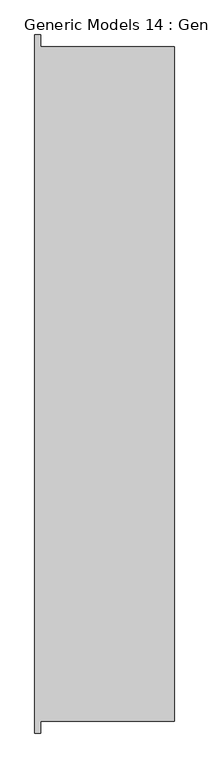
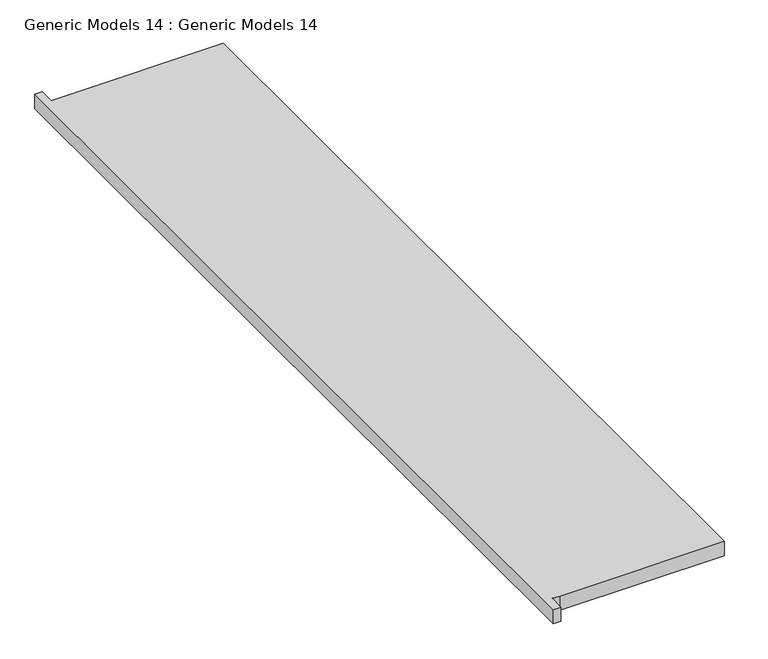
"""IFC4 building model written with IfcOpenShell, lengths in millimetres: proxy geometry, Generic Models 14 : Generic Models 14."""

from ifc_helpers import new_model, si_unit, frame, origin, place, context, project, spatial, polyline, outline, extrude, source, transform, mapped, element, save


def generic_models_14_generic_models_14_d007ad1f(model_context):
    return source(origin(), model_context, "Body", "SweptSolid", [
        extrude(outline(polyline([(3797.3, 990.6), (3797.3, 2514.6), (3810.0, 2514.6), (3810.0, 2489.2), (3822.7, 2489.2), (4102.1, 2489.2), (4102.1, 1016.0), (3822.7, 1016.0), (3810.0, 1016.0), (3810.0, 990.6), (3797.3, 990.6)])), frame((0.0, 0.0, 4318.0), z_axis=(0.0, 0.0, 1.0), x_axis=(1.0, 0.0, 0.0)), (0.0, 0.0, 1.0), 25.4),
    ])


if __name__ == "__main__":
    model = new_model("IFC4")
    model_context = context("Model", 3, world=origin())
    ifc_project = project(units=[si_unit("LENGTHUNIT", "METRE", prefix="MILLI")], contexts=[model_context])
    site = spatial("IfcSite", under=ifc_project)
    building = spatial("IfcBuilding", under=site)
    placement = place(None, origin())
    generic_models_14_generic_models_14_shape = generic_models_14_generic_models_14_d007ad1f(model_context)
    element("IfcBuildingElementProxy", 1, Name="Generic Models 14 : Generic Models 14", ObjectType="Generic Models 14 : Generic Models 14", at=placement, inside=building, context=model_context, shape_type="MappedRepresentation", body=[
        mapped(generic_models_14_generic_models_14_shape, transform((0.0, 0.0, 0.0), x_axis=(1.0, 0.0, 0.0), y_axis=(0.0, 1.0, 0.0), z_axis=(0.0, 0.0, 1.0))),
    ])
    save(model, "model.ifc")
